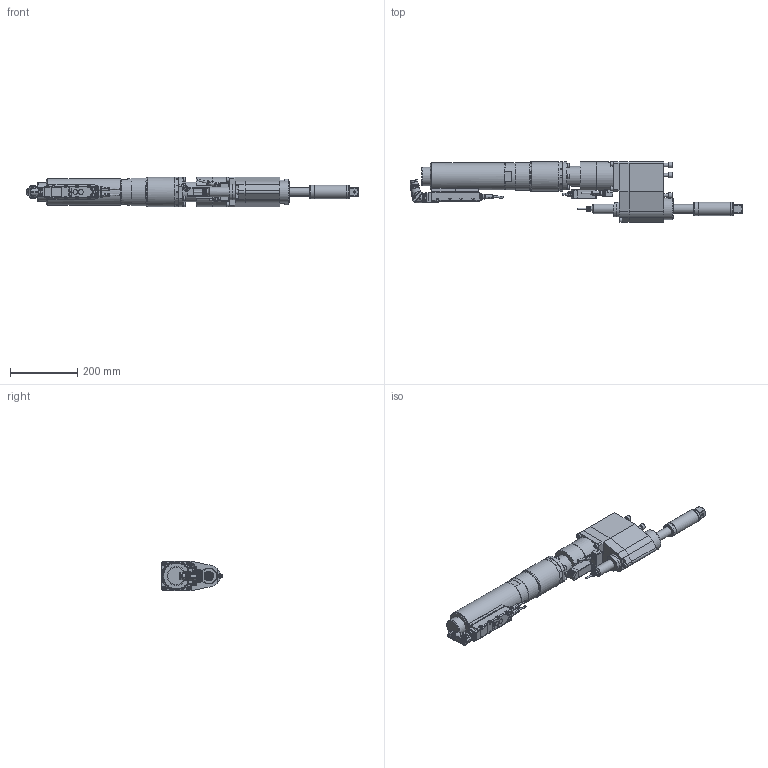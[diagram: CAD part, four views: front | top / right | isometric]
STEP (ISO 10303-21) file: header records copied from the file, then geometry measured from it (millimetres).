
FILE_DESCRIPTION (( 'STEP AP214' ), '1' );
FILE_NAME ('70082505_ESX461DRX800WX4.STEP', '2016-11-15T06:34:33', ( 'admin' ), ( '' ), 'SwSTEP 2.0', 'SolidWorks 2014', '' );
FILE_SCHEMA (( 'AUTOMOTIVE_DESIGN' ));
Length unit declared in the file: millimetre
Products named in the file (12): 7006176_3; 70082387; 70082363; 70082326; 70082311_ESX461_Standard_Winkel_2; 70082293_2; 70057493_Standard_winkel; 70057493_4; 70057493_3; 70057493_2; 70082311; 70082505_ESX461DRX800WX4
Assembly tree (12 placements, depth 4):
  70082505_ESX461DRX800WX4
    70082311_ESX461_Standard_Winkel_2
      70082311
      70057493_Standard_winkel
        70057493_2
        70057493_3
        70057493_4
      70082293_2  x2
    70082326
    70082363
    70082387
    7006176_3
Bounding box: 984.76 x 180.58 x 88 mm (x, y, z)
Volume: 5426876.5 mm3; surface area: 466906.9 mm2
Topology: 14 solids, 14 shells, 3264 faces, 8448 edges, 5464 vertices
Faces by surface type: plane 1595, cylinder 884, cone 422, bspline 270, torus 87, sphere 6
Full cylindrical faces by diameter (mm): 0.5 x14, 0.57 x14, 2 x3, 3 x4, 4.2 x1, 4.9 x7, 5 x9, 5.5 x12, 6 x3, 6.8 x12, 8 x43, 8.459 x2, 9 x7, 9.1 x1, 10 x5, 11.08 x3, 12 x1, 12.3 x3, 13 x17, 14 x6, 14.5 x2, 16 x5, 17.4 x1, 20 x1, 21.15 x1, 21.5 x1, 21.7 x1, 22.3 x1, 24.3 x1, 24.75 x2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
Entity records: 108544 total; most frequent: CARTESIAN_POINT 35094, ORIENTED_EDGE 15156, DIRECTION 13344, EDGE_CURVE 7578, VERTEX_POINT 5122, AXIS2_PLACEMENT_3D 4988, EDGE_LOOP 3816, FACE_OUTER_BOUND 3411
